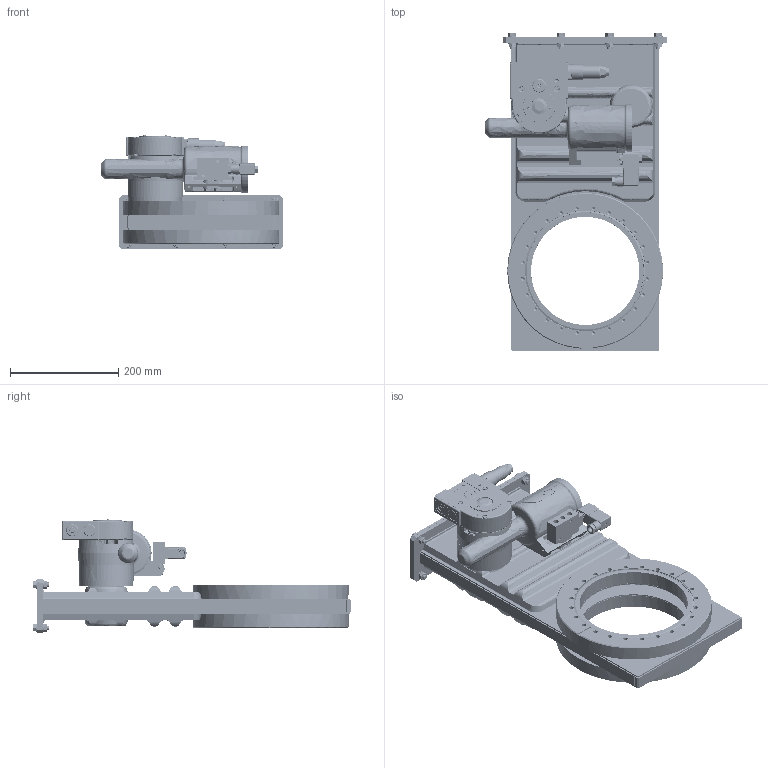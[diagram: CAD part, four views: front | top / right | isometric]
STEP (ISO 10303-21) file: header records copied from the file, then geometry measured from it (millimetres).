
FILE_DESCRIPTION((''),'2;1');
FILE_NAME('O:\MT\MT\Systeme\Cad\Datenexporte\www_vat_ch\211634.stp','2005-07-29T15:39:14',('User'),('SDRC'),'I-DEAS Master Series 9','UNIX','Yes');
FILE_SCHEMA(('CONFIG_CONTROL_DESIGN'));
Length unit declared in the file: millimetre
Assembly tree (80 placements, depth 0):
Bounding box: 338 x 587.9 x 211.95 mm (x, y, z)
Volume: 4029377.6 mm3; surface area: 1443219.2 mm2
Topology: 109 solids, 109 shells, 3218 faces, 7440 edges, 4754 vertices
Faces by surface type: bspline 3218
Entity records: 84579 total; most frequent: CARTESIAN_POINT 46036, ORIENTED_EDGE 10834, EDGE_CURVE 5417, VERTEX_POINT 3493, EDGE_LOOP 2676, FACE_OUTER_BOUND 2260, ADVANCED_FACE 2260, B_SPLINE_CURVE_WITH_KNOTS 1783
